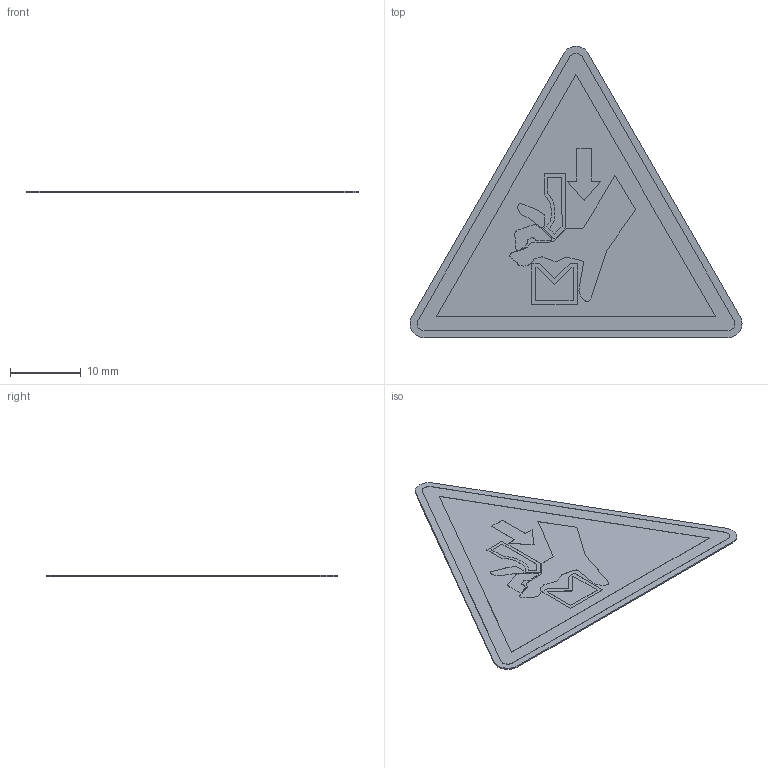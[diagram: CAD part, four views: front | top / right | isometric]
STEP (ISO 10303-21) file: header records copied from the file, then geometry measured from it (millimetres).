
FILE_DESCRIPTION (( 'STEP AP214' ), '1' );
FILE_NAME ('W030_Warnung vor Quetschgefahr der Hand zwischen Werkzeugen einer Presse.STEP', '2022-03-05T05:20:15', ( '' ), ( '' ), 'SwSTEP 2.0', 'SolidWorks 2021', '' );
FILE_SCHEMA (( 'AUTOMOTIVE_DESIGN' ));
Length unit declared in the file: millimetre
Products named in the file (1): W030_Warnung vor Quetschgefahr der Hand zwischen Werkzeugen einer Presse
Bounding box: 47.07 x 41.3 x 0.22 mm (x, y, z)
Volume: 221.4 mm3; surface area: 2180.3 mm2
Topology: 1 solids, 1 shells, 88 faces, 228 edges, 152 vertices
Faces by surface type: plane 72, cylinder 12, bspline 4
Entity records: 3954 total; most frequent: CARTESIAN_POINT 925, ORIENTED_EDGE 456, DIRECTION 414, EDGE_CURVE 228, LINE 196, VECTOR 196, VERTEX_POINT 152, AXIS2_PLACEMENT_3D 109
